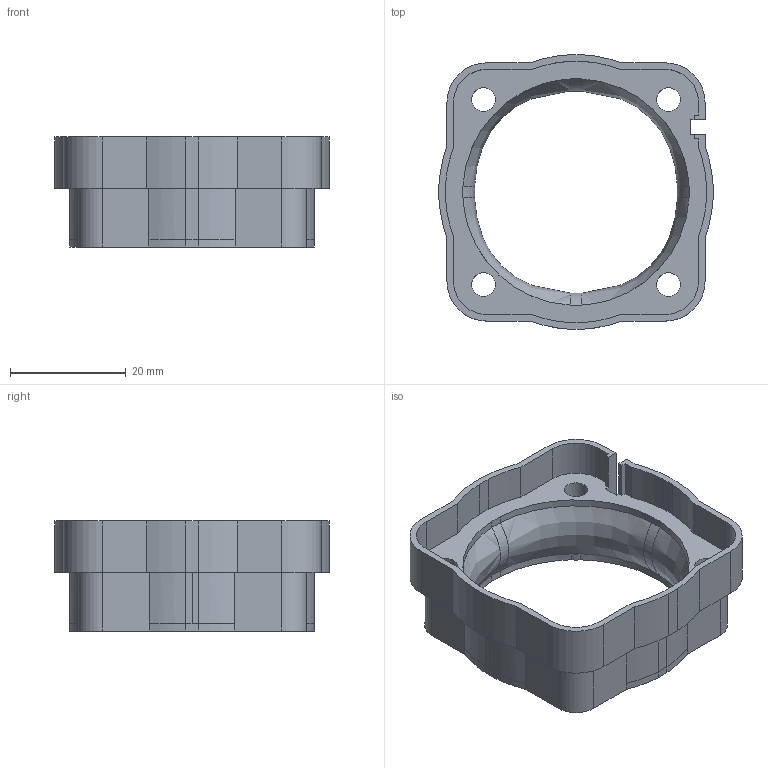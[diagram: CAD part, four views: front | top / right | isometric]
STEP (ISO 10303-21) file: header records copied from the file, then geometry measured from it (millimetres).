
FILE_DESCRIPTION (( 'STEP AP203' ), '1' );
FILE_NAME ('Type_A_Fan_Mount.STEP', '2026-07-26T16:17:08', ( '' ), ( '' ), 'SwSTEP 2.0', 'SolidWorks 2024', '' );
FILE_SCHEMA (( 'CONFIG_CONTROL_DESIGN' ));
Length unit declared in the file: inch
Products named in the file (1): Type_A_Fan_Mount
Bounding box: 47.48 x 47.52 x 19.05 mm (x, y, z)
Volume: 7858 mm3; surface area: 8986.6 mm2
Topology: 1 solids, 2 shells, 159 faces, 449 edges, 292 vertices
Faces by surface type: bspline 74, plane 52, cylinder 33
Entity records: 10844 total; most frequent: CARTESIAN_POINT 7170, ORIENTED_EDGE 898, DIRECTION 493, EDGE_CURVE 449, VERTEX_POINT 292, VECTOR 211, LINE 211, B_SPLINE_CURVE_WITH_KNOTS 183
